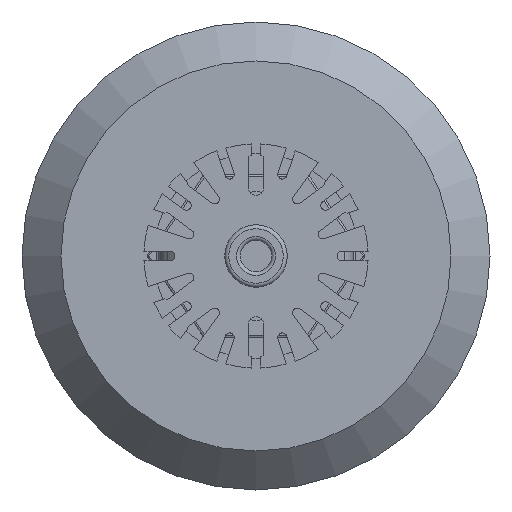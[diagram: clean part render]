
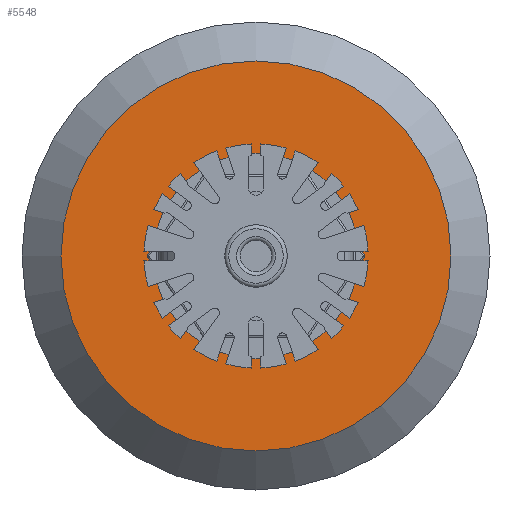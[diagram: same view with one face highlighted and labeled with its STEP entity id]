
A CAD part, front view. The second image highlights one B-rep face of the part: STEP entity #5548.
In plain terms, the highlighted planar face has unit normal (0, -1, 0).
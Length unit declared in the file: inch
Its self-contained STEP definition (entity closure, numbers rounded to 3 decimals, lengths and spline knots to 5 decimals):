
#268=FACE_BOUND('',#819,.T.);
#280=PLANE('',#5949);
#493=FACE_OUTER_BOUND('',#818,.T.);
#818=EDGE_LOOP('',(#3577,#3578));
#819=EDGE_LOOP('',(#3579,#3580));
#1878=CIRCLE('',#5947,1.25);
#1879=CIRCLE('',#5948,1.25);
#1880=CIRCLE('',#5950,0.6575);
#1881=CIRCLE('',#5951,0.6575);
#2209=VERTEX_POINT('',#8147);
#2210=VERTEX_POINT('',#8148);
#2211=VERTEX_POINT('',#8153);
#2212=VERTEX_POINT('',#8154);
#2731=EDGE_CURVE('',#2209,#2210,#1878,.T.);
#2732=EDGE_CURVE('',#2210,#2209,#1879,.T.);
#2734=EDGE_CURVE('',#2211,#2212,#1880,.T.);
#2735=EDGE_CURVE('',#2212,#2211,#1881,.T.);
#3577=ORIENTED_EDGE('',*,*,#2731,.T.);
#3578=ORIENTED_EDGE('',*,*,#2732,.T.);
#3579=ORIENTED_EDGE('',*,*,#2734,.F.);
#3580=ORIENTED_EDGE('',*,*,#2735,.F.);
#5548=ADVANCED_FACE('',(#493,#268),#280,.T.);
#5947=AXIS2_PLACEMENT_3D('',#8149,#6579,#6580);
#5948=AXIS2_PLACEMENT_3D('',#8150,#6581,#6582);
#5949=AXIS2_PLACEMENT_3D('',#8152,#6584,#6585);
#5950=AXIS2_PLACEMENT_3D('',#8155,#6586,#6587);
#5951=AXIS2_PLACEMENT_3D('',#8156,#6588,#6589);
#6579=DIRECTION('center_axis',(0.,-1.,0.));
#6580=DIRECTION('ref_axis',(1.,0.,0.));
#6581=DIRECTION('center_axis',(0.,-1.,0.));
#6582=DIRECTION('ref_axis',(1.,0.,0.));
#6584=DIRECTION('center_axis',(0.,-1.,0.));
#6585=DIRECTION('ref_axis',(-1.,0.,0.));
#6586=DIRECTION('center_axis',(0.,-1.,0.));
#6587=DIRECTION('ref_axis',(-1.,0.,0.));
#6588=DIRECTION('center_axis',(0.,-1.,0.));
#6589=DIRECTION('ref_axis',(-1.,0.,0.));
#8147=CARTESIAN_POINT('',(-1.25,1.8,0.));
#8148=CARTESIAN_POINT('',(1.25,1.8,0.));
#8149=CARTESIAN_POINT('Origin',(0.,1.8,0.));
#8150=CARTESIAN_POINT('Origin',(0.,1.8,0.));
#8152=CARTESIAN_POINT('Origin',(-0.6575,1.8,0.));
#8153=CARTESIAN_POINT('',(-0.6575,1.8,0.));
#8154=CARTESIAN_POINT('',(0.6575,1.8,0.));
#8155=CARTESIAN_POINT('Origin',(0.,1.8,0.));
#8156=CARTESIAN_POINT('Origin',(0.,1.8,0.));
